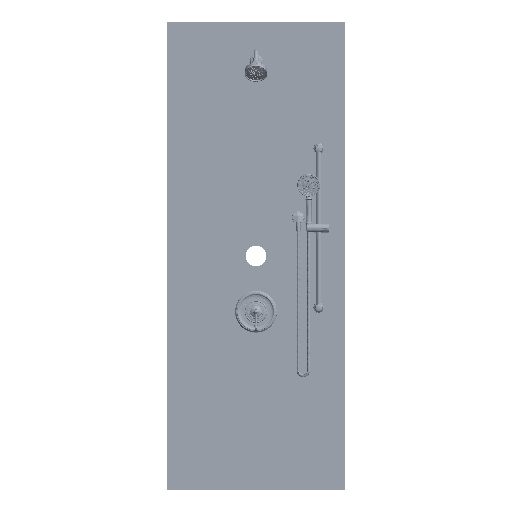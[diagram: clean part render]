
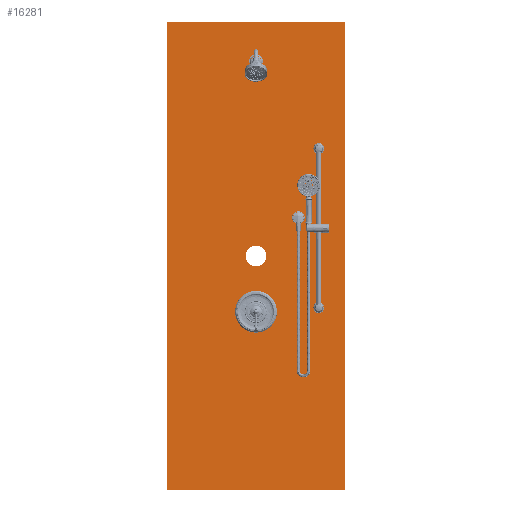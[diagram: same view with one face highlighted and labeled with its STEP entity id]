
A CAD part, top view. The second image highlights one B-rep face of the part: STEP entity #16281.
In plain terms, the highlighted planar face has unit normal (0, 0, 1).
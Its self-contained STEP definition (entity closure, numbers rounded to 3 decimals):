
#1713 = DIRECTION ( 'NONE',  ( 0., 0., 1. ) ) ;
#2640 = CARTESIAN_POINT ( 'NONE',  ( -16., 52., 0. ) ) ;
#3328 = DIRECTION ( 'NONE',  ( -1., 0., 0. ) ) ;
#8948 = ORIENTED_EDGE ( 'NONE', *, *, #118138, .T. ) ;
#9580 = FACE_OUTER_BOUND ( 'NONE', #99612, .T. ) ;
#11628 = AXIS2_PLACEMENT_3D ( 'NONE', #91439, #37461, #88795 ) ;
#16058 = CIRCLE ( 'NONE', #79195, 1.875 ) ;
#16281 = ADVANCED_FACE ( 'NONE', ( #104920, #9580 ), #106710, .T. ) ;
#22085 = AXIS2_PLACEMENT_3D ( 'NONE', #109682, #166371, #164594 ) ;
#24489 = CARTESIAN_POINT ( 'NONE',  ( 16., 52., 0. ) ) ;
#26027 = DIRECTION ( 'NONE',  ( 1., 0., 0. ) ) ;
#27113 = VERTEX_POINT ( 'NONE', #89349 ) ;
#30368 = VERTEX_POINT ( 'NONE', #107506 ) ;
#32405 = VERTEX_POINT ( 'NONE', #115168 ) ;
#32905 = EDGE_CURVE ( 'NONE', #32405, #30368, #16058, .T. ) ;
#37461 = DIRECTION ( 'NONE',  ( 0., 0., 1. ) ) ;
#39547 = LINE ( 'NONE', #2640, #86713 ) ;
#41176 = CARTESIAN_POINT ( 'NONE',  ( -16., 52., 0. ) ) ;
#54030 = DIRECTION ( 'NONE',  ( 1., 0., 0. ) ) ;
#55001 = EDGE_LOOP ( 'NONE', ( #175590, #92823 ) ) ;
#56617 = DIRECTION ( 'NONE',  ( 0., -1., 0. ) ) ;
#58194 = CARTESIAN_POINT ( 'NONE',  ( -16., 52., 0. ) ) ;
#60140 = VECTOR ( 'NONE', #3328, 39.37 ) ;
#61797 = EDGE_CURVE ( 'NONE', #107108, #27113, #177315, .T. ) ;
#65098 = CIRCLE ( 'NONE', #22085, 1.875 ) ;
#79195 = AXIS2_PLACEMENT_3D ( 'NONE', #107869, #1713, #26027 ) ;
#82230 = CARTESIAN_POINT ( 'NONE',  ( 16., 52., 0. ) ) ;
#86713 = VECTOR ( 'NONE', #56617, 39.37 ) ;
#88470 = VECTOR ( 'NONE', #132483, 39.37 ) ;
#88795 = DIRECTION ( 'NONE',  ( 1., 0., 0. ) ) ;
#89349 = CARTESIAN_POINT ( 'NONE',  ( 16., -32., 0. ) ) ;
#91439 = CARTESIAN_POINT ( 'NONE',  ( -16., -32., 0. ) ) ;
#92823 = ORIENTED_EDGE ( 'NONE', *, *, #32905, .F. ) ;
#96304 = CARTESIAN_POINT ( 'NONE',  ( -16., -32., 0. ) ) ;
#96373 = CARTESIAN_POINT ( 'NONE',  ( -16., -32., 0. ) ) ;
#99612 = EDGE_LOOP ( 'NONE', ( #177409, #128726, #8948, #166038 ) ) ;
#102105 = EDGE_CURVE ( 'NONE', #30368, #32405, #65098, .T. ) ;
#104920 = FACE_BOUND ( 'NONE', #55001, .T. ) ;
#106710 = PLANE ( 'NONE',  #11628 ) ;
#107108 = VERTEX_POINT ( 'NONE', #96373 ) ;
#107506 = CARTESIAN_POINT ( 'NONE',  ( 1.875, 10., 0. ) ) ;
#107869 = CARTESIAN_POINT ( 'NONE',  ( 0., 10., 0. ) ) ;
#109682 = CARTESIAN_POINT ( 'NONE',  ( 0., 10., 0. ) ) ;
#115168 = CARTESIAN_POINT ( 'NONE',  ( -1.875, 10., 0. ) ) ;
#118138 = EDGE_CURVE ( 'NONE', #27113, #133740, #136065, .T. ) ;
#122878 = VECTOR ( 'NONE', #54030, 39.37 ) ;
#128726 = ORIENTED_EDGE ( 'NONE', *, *, #61797, .T. ) ;
#131978 = VERTEX_POINT ( 'NONE', #41176 ) ;
#132483 = DIRECTION ( 'NONE',  ( 0., 1., 0. ) ) ;
#133740 = VERTEX_POINT ( 'NONE', #82230 ) ;
#136065 = LINE ( 'NONE', #24489, #88470 ) ;
#159700 = EDGE_CURVE ( 'NONE', #133740, #131978, #170583, .T. ) ;
#164594 = DIRECTION ( 'NONE',  ( 1., 0., 0. ) ) ;
#166038 = ORIENTED_EDGE ( 'NONE', *, *, #159700, .T. ) ;
#166371 = DIRECTION ( 'NONE',  ( 0., 0., 1. ) ) ;
#170583 = LINE ( 'NONE', #58194, #60140 ) ;
#173235 = EDGE_CURVE ( 'NONE', #131978, #107108, #39547, .T. ) ;
#175590 = ORIENTED_EDGE ( 'NONE', *, *, #102105, .F. ) ;
#177315 = LINE ( 'NONE', #96304, #122878 ) ;
#177409 = ORIENTED_EDGE ( 'NONE', *, *, #173235, .T. ) ;
